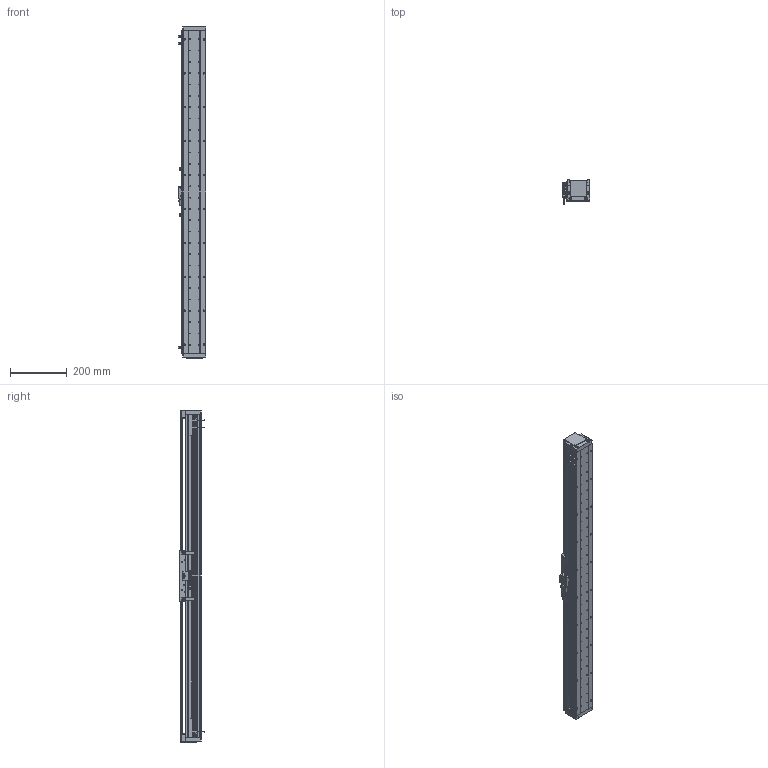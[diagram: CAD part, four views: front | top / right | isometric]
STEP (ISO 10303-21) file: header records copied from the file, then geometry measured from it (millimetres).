
FILE_DESCRIPTION (( 'STEP AP203' ), '1' );
FILE_NAME ('DA-A82-B2-T920-C010-0.2 眻盄萇儂.STEP', '2025-08-13T03:07:42', ( '' ), ( '' ), 'SwSTEP 2.0', 'SolidWorks 2019', '' );
FILE_SCHEMA (( 'CONFIG_CONTROL_DESIGN' ));
Length unit declared in the file: millimetre
Products named in the file (21): DA-A82-B2-T920-C010-0.2 眻盄萇儂; 复件 DA95-GT-T-00 底座钢轨^IU-AU82-L 底座导轨; 葩璃 XD-U-02  棠掑喜^DA-A82-B2-T-C010-0.2; 复件 DA82-DG-H-N-00 端盖^DA-A82-B2-T-C010-0.2(默认_按加工_); IU-AU82-L 菁釱絳寢; 葩璃 DA60-DMT-DTJ-00 黍杅芛盓殤^DA-A82-B2-T-C010-0.2; 葩璃 鞠褒情蹟譫 M3^DA-A82-B2-T-C010-0.2; AU82-HT-M-00 賑雄怢啣; 葩璃 DA82-B2-DP-00 結え^AU82-M 幗紩賑怢; 复件 DA95-B2-GT-00 滑块钢轨^AU82-M-00 一体化滑动台板; IU-AU82-L-00 菁釱(L1140); DA-A60-GYP-DMT-00 光电感应片^DA-A82-B2-T-C010-0.2(默认); 葩璃 BKM01-W040-TRL^DA-A82-B2-T-C010-0.2; 葩璃 PM-T45^DA-A82-B2-T-C010-0.2; AU82-M-00 珨极趙賑雄怢啣; ｸｴｼ BKM02-W040-C1-TP-DA-3.0 ﾖｱﾏﾟｵ扈巐ｯﾗﾓ^DA-A82-B2-T-C010-0.2; 葩璃 DMT-010 1米m 0.2M^DA-A82-B2-T-C010-0.2; 复件 纯铜油杯 6x6mm^AU82-M 滚珠滑台; 葩璃 DA82-T-002-00 裔啣^DA-A82-B2-T-C010-0.2; AU82-M 幗紩賑怢; 复件 复件 DA82-XJ-00 缓冲橡胶^DA-A82-B2-T-C010-0.2
Assembly tree (36 placements, depth 4):
  DA-A82-B2-T920-C010-0.2 眻盄萇儂
    IU-AU82-L 菁釱絳寢
      IU-AU82-L-00 菁釱(L1140)
      复件 DA95-GT-T-00 底座钢轨^IU-AU82-L 底座导轨  x2
    AU82-M 幗紩賑怢
      AU82-M-00 珨极趙賑雄怢啣
        AU82-HT-M-00 賑雄怢啣
        复件 DA95-B2-GT-00 滑块钢轨^AU82-M-00 一体化滑动台板  x4
      葩璃 DA82-B2-DP-00 結え^AU82-M 幗紩賑怢  x2
      复件 纯铜油杯 6x6mm^AU82-M 滚珠滑台  x2
    葩璃 DA60-DMT-DTJ-00 黍杅芛盓殤^DA-A82-B2-T-C010-0.2
    葩璃 DMT-010 1米m 0.2M^DA-A82-B2-T-C010-0.2
    DA-A60-GYP-DMT-00 光电感应片^DA-A82-B2-T-C010-0.2(默认)  x2
    ｸｴｼ BKM02-W040-C1-TP-DA-3.0 ﾖｱﾏﾟｵ扈巐ｯﾗﾓ^DA-A82-B2-T-C010-0.2
    复件 复件 DA82-XJ-00 缓冲橡胶^DA-A82-B2-T-C010-0.2  x2
    复件 DA82-DG-H-N-00 端盖^DA-A82-B2-T-C010-0.2(默认_按加工_)  x2
    葩璃 DA82-T-002-00 裔啣^DA-A82-B2-T-C010-0.2
    葩璃 BKM01-W040-TRL^DA-A82-B2-T-C010-0.2
    葩璃 PM-T45^DA-A82-B2-T-C010-0.2  x3
    葩璃 XD-U-02  棠掑喜^DA-A82-B2-T-C010-0.2
    葩璃 鞠褒情蹟譫 M3^DA-A82-B2-T-C010-0.2  x6
Bounding box: 98.95 x 87.2 x 1174 mm (x, y, z)
Volume: 3716107.8 mm3; surface area: 1072539.1 mm2
Topology: 40 solids, 64 shells, 2159 faces, 5698 edges, 3564 vertices
Faces by surface type: cylinder 1027, plane 824, cone 252, torus 38, bspline 12, sphere 6
Entity records: 59001 total; most frequent: CARTESIAN_POINT 13329, DIRECTION 9238, ORIENTED_EDGE 8718, EDGE_CURVE 4359, AXIS2_PLACEMENT_3D 3516, VERTEX_POINT 2831, VECTOR 2206, LINE 2206
